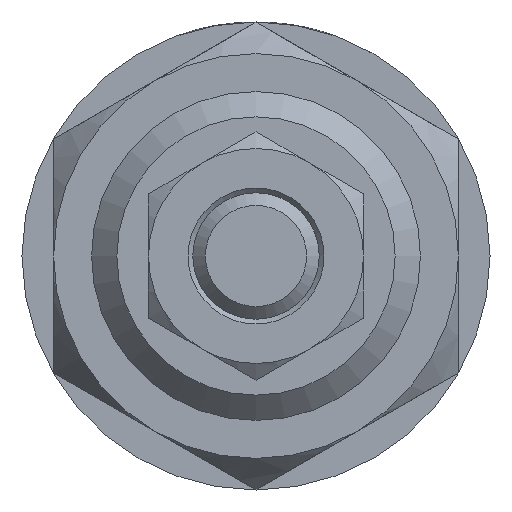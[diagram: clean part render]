
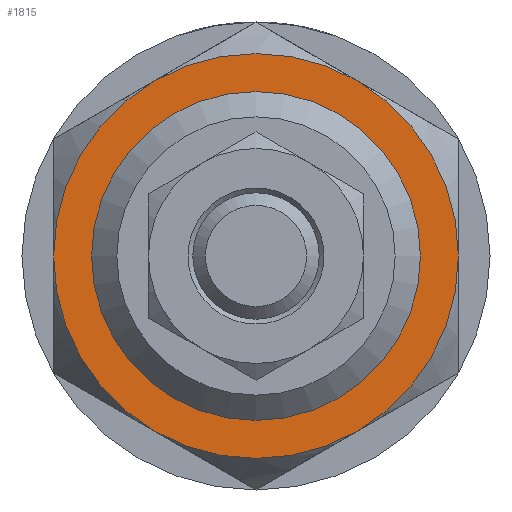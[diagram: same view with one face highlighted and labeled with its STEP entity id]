
A CAD part, front view. The second image highlights one B-rep face of the part: STEP entity #1815.
In plain terms, the highlighted planar face has unit normal (0, -1, 0).
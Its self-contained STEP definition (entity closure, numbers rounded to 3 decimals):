
#190=PLANE('',#1991);
#471=ORIENTED_EDGE('',*,*,#661,.T.);
#472=ORIENTED_EDGE('',*,*,#662,.T.);
#473=ORIENTED_EDGE('',*,*,#663,.T.);
#474=ORIENTED_EDGE('',*,*,#664,.T.);
#475=ORIENTED_EDGE('',*,*,#665,.T.);
#476=ORIENTED_EDGE('',*,*,#666,.T.);
#477=ORIENTED_EDGE('',*,*,#667,.T.);
#661=EDGE_CURVE('',#778,#778,#837,.T.);
#662=EDGE_CURVE('',#773,#777,#838,.F.);
#663=EDGE_CURVE('',#777,#779,#839,.F.);
#664=EDGE_CURVE('',#779,#760,#840,.F.);
#665=EDGE_CURVE('',#760,#765,#841,.F.);
#666=EDGE_CURVE('',#765,#769,#842,.F.);
#667=EDGE_CURVE('',#769,#773,#843,.F.);
#760=VERTEX_POINT('',#2781);
#765=VERTEX_POINT('',#2802);
#769=VERTEX_POINT('',#2821);
#773=VERTEX_POINT('',#2840);
#777=VERTEX_POINT('',#2859);
#778=VERTEX_POINT('',#2868);
#779=VERTEX_POINT('',#2871);
#837=CIRCLE('',#1992,12.75);
#838=CIRCLE('',#1993,16.);
#839=CIRCLE('',#1994,16.);
#840=CIRCLE('',#1995,16.);
#841=CIRCLE('',#1996,16.);
#842=CIRCLE('',#1997,16.);
#843=CIRCLE('',#1998,16.);
#961=EDGE_LOOP('',(#471));
#962=EDGE_LOOP('',(#472,#473,#474,#475,#476,#477));
#1093=FACE_BOUND('',#961,.T.);
#1094=FACE_BOUND('',#962,.T.);
#1815=ADVANCED_FACE('',(#1093,#1094),#190,.F.);
#1991=AXIS2_PLACEMENT_3D('',#2866,#2322,#2323);
#1992=AXIS2_PLACEMENT_3D('',#2867,#2324,#2325);
#1993=AXIS2_PLACEMENT_3D('',#2869,#2326,#2327);
#1994=AXIS2_PLACEMENT_3D('',#2870,#2328,#2329);
#1995=AXIS2_PLACEMENT_3D('',#2872,#2330,#2331);
#1996=AXIS2_PLACEMENT_3D('',#2873,#2332,#2333);
#1997=AXIS2_PLACEMENT_3D('',#2874,#2334,#2335);
#1998=AXIS2_PLACEMENT_3D('',#2875,#2336,#2337);
#2322=DIRECTION('',(0.,1.,0.));
#2323=DIRECTION('',(0.,0.,1.));
#2324=DIRECTION('',(0.,1.,0.));
#2325=DIRECTION('',(0.,0.,1.));
#2326=DIRECTION('',(0.,1.,0.));
#2327=DIRECTION('',(0.,0.,1.));
#2328=DIRECTION('',(0.,1.,0.));
#2329=DIRECTION('',(0.,0.,1.));
#2330=DIRECTION('',(0.,1.,0.));
#2331=DIRECTION('',(0.,0.,1.));
#2332=DIRECTION('',(0.,1.,0.));
#2333=DIRECTION('',(0.,0.,1.));
#2334=DIRECTION('',(0.,1.,0.));
#2335=DIRECTION('',(0.,0.,1.));
#2336=DIRECTION('',(0.,1.,0.));
#2337=DIRECTION('',(0.,0.,1.));
#2781=CARTESIAN_POINT('',(-8.,-8.,-13.856));
#2802=CARTESIAN_POINT('',(8.,-8.,-13.856));
#2821=CARTESIAN_POINT('',(16.,-8.,0.));
#2840=CARTESIAN_POINT('',(8.,-8.,13.856));
#2859=CARTESIAN_POINT('',(-8.,-8.,13.856));
#2866=CARTESIAN_POINT('',(0.,-8.,0.));
#2867=CARTESIAN_POINT('',(0.,-8.,0.));
#2868=CARTESIAN_POINT('',(0.,-8.,12.75));
#2869=CARTESIAN_POINT('',(0.,-8.,0.));
#2870=CARTESIAN_POINT('',(0.,-8.,0.));
#2871=CARTESIAN_POINT('',(-16.,-8.,0.));
#2872=CARTESIAN_POINT('',(0.,-8.,0.));
#2873=CARTESIAN_POINT('',(0.,-8.,0.));
#2874=CARTESIAN_POINT('',(0.,-8.,0.));
#2875=CARTESIAN_POINT('',(0.,-8.,0.));
